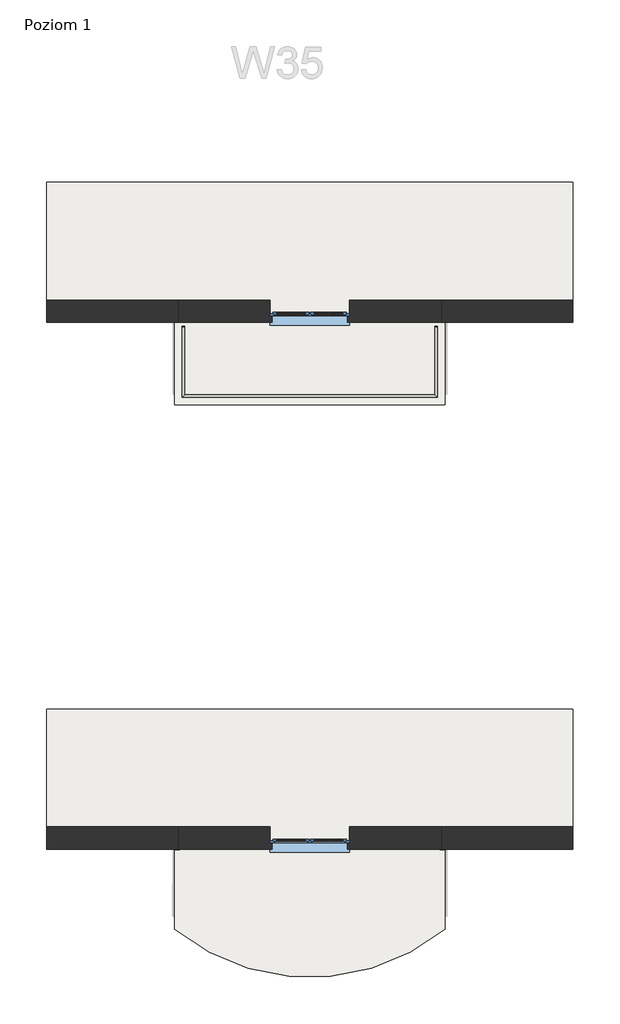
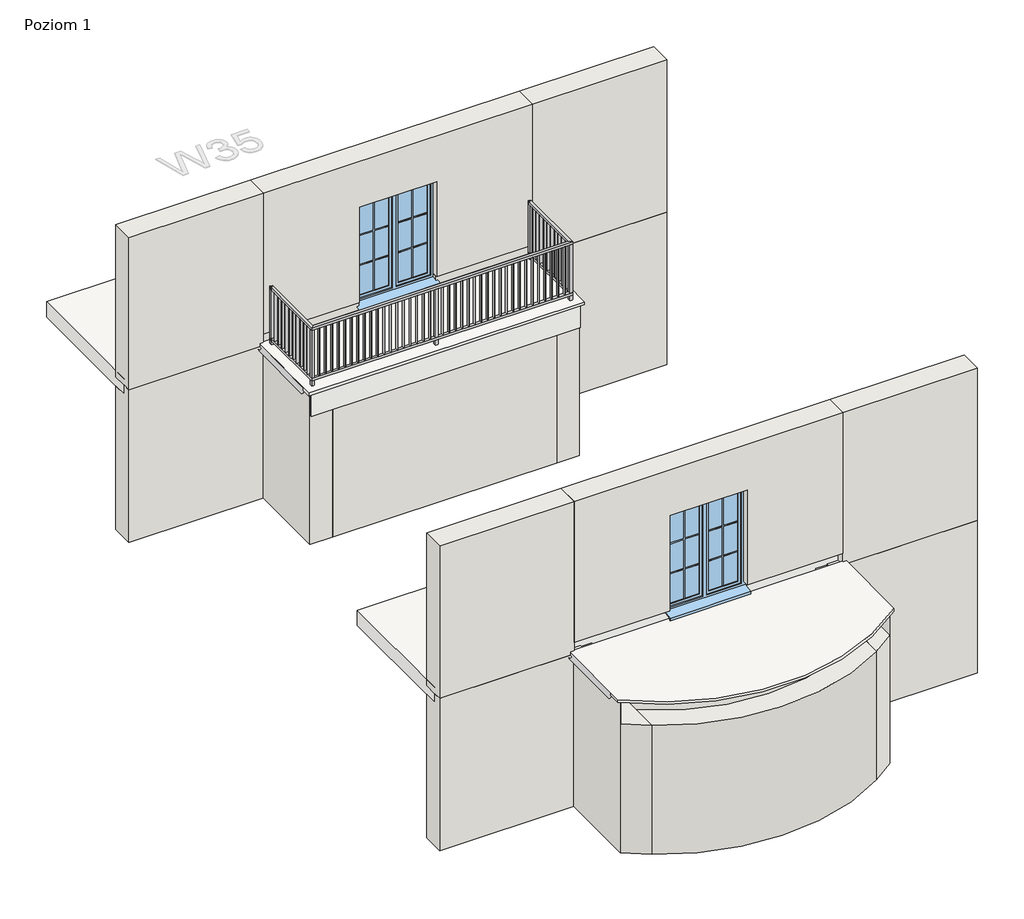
# One storey, part 1 of 4: 19 walls, 5 slabs, 2 windows, 1 railing.
"""IFC4 building model written with IfcOpenShell, lengths in millimetres."""

from ifc_helpers import new_model, si_unit, point, frame, frame_2d, origin, place, context, project, spatial, polyline, circle_curve, ellipse_curve, trimmed, segment, composite_curve, outline, extrude, faceted_brep, transform, mapped, element, save
from ifc_brep_helpers import plane_surface, cylinder_surface, advanced_brep
from components import balkon_fbdb0a73, window_150x200_9b3c3a3c

model = new_model("IFC4")

# Units and contexts
model_context = context("Model", 3, world=origin())
ifc_project = project(units=[si_unit("LENGTHUNIT", "METRE", prefix="MILLI")], contexts=[model_context])

# Site, building, storey
site = spatial("IfcSite", under=ifc_project)
building = spatial("IfcBuilding", under=site)
storey = spatial("IfcBuildingStorey", under=building, Name="Poziom 1", Elevation=0.0)

# Railing
placement = place(None, origin())
balkon_shape = balkon_fbdb0a73(model_context)
element("IfcRailing", 1, ObjectType="Balkon", at=placement, inside=storey, context=model_context, shape_type="MappedRepresentation", body=[
    mapped(balkon_shape, transform((0.0, 0.0, 0.0), x_axis=(1.0, 0.0, 0.0), y_axis=(0.0, 1.0, 0.0), z_axis=(0.0, 0.0, 1.0))),
])

# Slabs
element("IfcSlab", 2, ObjectType="Taras - konstrukcja", at=placement, inside=storey, context=model_context, shape_type="Brep", body=[
    faceted_brep([(-69561.8216237, -59321.1892174, -590.0), (-69561.8216237, -59284.0675263, -590.0), (-69561.8216237, -57779.0675263, -590.0), (-69561.8216237, -57624.0675263, -590.0), (-69146.8216237, -57624.0675263, -590.0), (-64976.8216237, -57624.0675263, -590.0), (-64561.8216237, -57624.0675263, -590.0), (-64561.8216237, -59284.0675263, -590.0), (-64561.8216237, -59321.1892174, -590.0), (-69561.8216237, -59321.1892174, -145.0), (-69561.8216237, -57757.0675263, -115.5077754), (-69561.8216237, -57624.0675263, -113.0), (-64561.8216237, -57624.0675263, -113.0), (-64561.8216237, -57624.0675263, -147.509132), (-64561.8216237, -59321.1892174, -145.0), (-64561.8216237, -57757.0675263, -115.5077754)], [[[0, 1, 2, 3, 4, 5, 6, 7, 8]], [[3, 2, 1, 0, 9, 10, 11]], [[6, 5, 4, 3, 11, 12, 13]], [[0, 8, 14, 9]], [[8, 7, 6, 13, 12, 15, 14]], [[14, 15, 12, 11, 10, 9]]]),
])
element("IfcSlab", 3, ObjectType="Taras - wykończenie - posadzka z płytek grubowarstwowych - podkładka P1 - hydroizolacja", at=placement, inside=storey, context=model_context, shape_type="SweptSolid", body=[
    extrude(outline(polyline([(-59342.0675263, -145.9716012), (-59342.0675263, -92.9716012), (-57757.0675263, -62.5716012), (-57757.0675263, -115.5716012), (-59342.0675263, -145.9716012)])), frame((-69624.8216237, 0.0, 0.0), z_axis=(1.0, 0.0, 0.0), x_axis=(0.0, 1.0, 0.0)), (0.0, 0.0, 1.0), 5126.0),
])
element("IfcSlab", 4, ObjectType="Taras - wykończenie - posadzka z płytek grubowarstwowych - podkładka P1 - hydroizolacja", at=placement, inside=storey, context=model_context, shape_type="AdvancedBrep", body=[
    advanced_brep(
    [(-69624.8216237, -67757.0675263, -62.5716012), (-69624.8216237, -67757.0675263, -115.5716012), (-69624.8216237, -69302.74001, -133.7489488), (-69624.8216237, -69302.74001, -80.7489488), (-64498.8216237, -67757.0675263, -62.5716012), (-64498.8216237, -67757.0675263, -115.5716012), (-64498.8216237, -69302.74001, -80.7489488), (-64498.8216237, -69302.74001, -133.7489488)],
    [
        (0, 1),
        (1, 2),
        (2, 3),
        (3, 0),
        (0, 4),
        (4, 5),
        (5, 1),
        (4, 6),
        (6, 7),
        (7, 5),
        (3, 6, ellipse_curve(frame((-67061.8216237, -66156.5685271, -43.7494853), z_axis=(0.0, -0.011759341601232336, 0.9999308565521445), x_axis=(0.0, -0.9999308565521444, -0.011759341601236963)), 4058.2806035, 4058.0)),
        (7, 2, ellipse_curve(frame((-67061.8216237, -66156.5685271, -96.7494853), z_axis=(0.0, 0.011759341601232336, -0.9999308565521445), x_axis=(0.0, -0.9999308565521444, -0.011759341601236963)), 4058.2806035, 4058.0)),
    ],
    [
        plane_surface(frame((-69624.8216237, -70342.0675263, -145.9716012), z_axis=(-1.0, 0.0, 0.0), x_axis=(0.0, 0.0, 1.0))),
        plane_surface(frame((-69624.8216237, -67757.0675263, -145.9716012), z_axis=(0.0, 1.0, 0.0), x_axis=(0.0, 0.0, 1.0))),
        plane_surface(frame((-64498.8216237, -67757.0675263, -145.9716012), z_axis=(1.0, 0.0, 0.0), x_axis=(0.0, 0.0, 1.0))),
        plane_surface(frame((-67061.8216237, -69049.5675263, -77.7716012), z_axis=(0.0, -0.011759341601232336, 0.9999308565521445), x_axis=(0.0, 0.9999308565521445, 0.011759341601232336))),
        plane_surface(frame((-67061.8216237, -69049.5675263, -130.7716012), z_axis=(0.0, 0.011759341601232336, -0.9999308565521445), x_axis=(0.0, 0.9999308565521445, 0.011759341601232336))),
        cylinder_surface(frame((-67061.8216237, -66156.5685271, -450.7716012), z_axis=(0.0, 0.0, -1.0), x_axis=(1.0, 0.0, 0.0)), 4058.0),
    ],
    [
        (0, [[1, 2, 3, 4]]),
        (1, [[-1, 5, 6, 7]]),
        (2, [[-6, 8, 9, 10]]),
        (3, [[-5, -4, 11, -8]]),
        (4, [[-7, -10, 12, -2]]),
        (5, [[-3, -12, -9, -11]]),
    ],
),
])
element("IfcSlab", 5, ObjectType="Strop", at=placement, inside=storey, context=model_context, shape_type="Brep", body=[
    faceted_brep([(-62061.8216237, -57624.0675263, -300.0), (-64556.8216237, -57624.0675263, -300.0), (-64976.8216237, -57624.0675263, -300.0), (-69146.8216237, -57624.0675263, -300.0), (-72061.8216237, -57624.0675263, -300.0), (-72061.8216237, -57359.0675263, -300.0), (-72061.8216237, -55124.0675263, -300.0), (-62061.8216237, -55124.0675263, -300.0), (-62061.8216237, -57359.0675263, -300.0), (-62061.8216237, -57624.0675263, 0.0), (-62061.8216237, -55124.0675263, 0.0), (-72061.8216237, -55124.0675263, 0.0), (-72061.8216237, -57624.0675263, 0.0), (-69561.8216237, -57624.0675263, 0.0), (-67811.8216237, -57624.0675263, 0.0), (-66311.8216237, -57624.0675263, 0.0), (-64561.8216237, -57624.0675263, 0.0), (-62061.8216237, -57624.0675263, -125.0), (-72061.8216237, -57624.0675263, -125.0)], [[[0, 1, 2, 3, 4, 5, 6, 7, 8]], [[9, 10, 11, 12, 13, 14, 15, 16]], [[4, 3, 2, 1, 0, 17, 9, 16, 15, 14, 13, 12, 18]], [[6, 5, 4, 18, 12, 11]], [[7, 6, 11, 10]], [[0, 8, 7, 10, 9, 17]]]),
])
element("IfcSlab", 6, ObjectType="Strop", at=placement, inside=storey, context=model_context, shape_type="Brep", body=[
    faceted_brep([(-62061.8216237, -67624.0675263, -300.0), (-64556.8216237, -67624.0675263, -300.0), (-64976.8216237, -67624.0675263, -300.0), (-69146.8216237, -67624.0675263, -300.0), (-72061.8216237, -67624.0675263, -300.0), (-72061.8216237, -67359.0675263, -300.0), (-72061.8216237, -65124.0675263, -300.0), (-62061.8216237, -65124.0675263, -300.0), (-62061.8216237, -67359.0675263, -300.0), (-62061.8216237, -67624.0675263, 0.0), (-62061.8216237, -65124.0675263, 0.0), (-72061.8216237, -65124.0675263, 0.0), (-72061.8216237, -67624.0675263, 0.0), (-69561.8216237, -67624.0675263, 0.0), (-67811.8216237, -67624.0675263, 0.0), (-66311.8216237, -67624.0675263, 0.0), (-64561.8216237, -67624.0675263, 0.0), (-62061.8216237, -67624.0675263, -125.0), (-72061.8216237, -67624.0675263, -125.0)], [[[0, 1, 2, 3, 4, 5, 6, 7, 8]], [[9, 10, 11, 12, 13, 14, 15, 16]], [[4, 3, 2, 1, 0, 17, 9, 16, 15, 14, 13, 12, 18]], [[6, 5, 4, 18, 12, 11]], [[7, 6, 11, 10]], [[0, 8, 7, 10, 9, 17]]]),
])

# Walls
element("IfcWall", 7, ObjectType="Porotherm P+W 25 + o15 + t", at=placement, inside=storey, context=model_context, shape_type="Brep", body=[
    faceted_brep([(-72061.8216237, -57779.0675263, -3125.0), (-69566.8216237, -57779.0675263, -3125.0), (-69146.8216237, -57779.0675263, -3125.0), (-69146.8216237, -57779.0675263, -590.0), (-69146.8216237, -57779.0675263, -147.509132), (-69356.8216237, -57779.0675263, -147.509132), (-69356.8216237, -57779.0675263, -125.0), (-69561.8216237, -57779.0675263, -125.0), (-72061.8216237, -57779.0675263, -125.0), (-69146.8216237, -57359.0675263, -3125.0), (-72061.8216237, -57359.0675263, -3125.0), (-72061.8216237, -57359.0675263, -300.0), (-69146.8216237, -57359.0675263, -300.0), (-69146.8216237, -57639.0675263, -3125.0), (-69356.8216237, -57624.0675263, -125.0), (-72061.8216237, -57624.0675263, -125.0), (-72061.8216237, -57624.0675263, -300.0), (-69146.8216237, -57624.0675263, -300.0), (-69356.8216237, -57624.0675263, -147.509132), (-69146.8216237, -57624.0675263, -147.509132)], [[[0, 1, 2, 3, 4, 5, 6, 7, 8]], [[9, 10, 11, 12]], [[2, 1, 0, 10, 9, 13]], [[8, 7, 6, 14, 15]], [[0, 8, 15, 16, 11, 10]], [[16, 17, 12, 11]], [[17, 16, 15, 14, 18, 19]], [[6, 5, 18, 14]], [[5, 4, 19, 18]], [[4, 3, 2, 13, 9, 12, 17, 19]]]),
])
element("IfcWall", 8, ObjectType="Porotherm P+W 25 + o15 + t", at=placement, inside=storey, context=model_context, shape_type="Brep", body=[
    faceted_brep([(-69566.8216237, -57779.0675263, -3125.0), (-69566.8216237, -59284.0675263, -3125.0), (-69566.8216237, -59284.0675263, -147.509132), (-69566.8216237, -57779.0675263, -147.509132), (-69146.8216237, -59284.0675263, -3125.0), (-69146.8216237, -58864.0675263, -3125.0), (-69146.8216237, -57779.0675263, -3125.0), (-69146.8216237, -57779.0675263, -590.0), (-69146.8216237, -59284.0675263, -590.0), (-69561.8216237, -59284.0675263, -147.509132), (-69561.8216237, -57779.0675263, -147.509132), (-69561.8216237, -59284.0675263, -590.0), (-69561.8216237, -57779.0675263, -590.0)], [[[0, 1, 2, 3]], [[4, 5, 6, 7, 8]], [[1, 0, 6, 5, 4]], [[3, 2, 9, 10]], [[2, 1, 4, 8, 11, 9]], [[0, 3, 10, 12, 7, 6]], [[12, 11, 8, 7]], [[11, 12, 10, 9]]]),
])
element("IfcWall", 9, ObjectType="Porotherm P+W 25 + o15 + t", at=placement, inside=storey, context=model_context, shape_type="SweptSolid", body=[
    extrude(outline(polyline([(-64976.8216237, -59284.0675263), (-69146.8216237, -59284.0675263), (-69146.8216237, -58864.0675263), (-64976.8216237, -58864.0675263), (-64976.8216237, -59284.0675263)])), frame((0.0, 0.0, -3125.0), z_axis=(0.0, 0.0, 1.0), x_axis=(1.0, 0.0, 0.0)), (0.0, 0.0, 1.0), 2535.0),
])
element("IfcWall", 10, ObjectType="Porotherm P+W 25 + o15 + t", at=placement, inside=storey, context=model_context, shape_type="Brep", body=[
    faceted_brep([(-64556.8216237, -59284.0675263, -3125.0), (-64556.8216237, -57779.0675263, -3125.0), (-64556.8216237, -57359.0675263, -3125.0), (-64556.8216237, -57359.0675263, -300.0), (-64556.8216237, -57359.0675263, -147.509132), (-64556.8216237, -57624.0675263, -147.509132), (-64556.8216237, -57779.0675263, -147.509132), (-64556.8216237, -59284.0675263, -147.509132), (-64976.8216237, -57359.0675263, -3125.0), (-64976.8216237, -57639.0675263, -3125.0), (-64976.8216237, -58864.0675263, -3125.0), (-64976.8216237, -59284.0675263, -3125.0), (-64976.8216237, -59284.0675263, -590.0), (-64976.8216237, -58864.0675263, -590.0), (-64976.8216237, -57639.0675263, -590.0), (-64976.8216237, -57624.0675263, -590.0), (-64976.8216237, -57624.0675263, -300.0), (-64976.8216237, -57624.0675263, -147.509132), (-64976.8216237, -57359.0675263, -147.509132), (-64976.8216237, -57359.0675263, -300.0), (-64561.8216237, -57624.0675263, -147.509132), (-64561.8216237, -59284.0675263, -147.509132), (-64561.8216237, -59284.0675263, -590.0), (-64561.8216237, -57624.0675263, -590.0)], [[[0, 1, 2, 3, 4, 5, 6, 7]], [[8, 9, 10, 11, 12, 13, 14, 15, 16, 17, 18, 19]], [[2, 1, 0, 11, 10, 9, 8]], [[7, 6, 5, 4, 18, 17, 20, 21]], [[0, 7, 21, 22, 12, 11]], [[4, 3, 2, 8, 19, 18]], [[22, 23, 15, 14, 13, 12]], [[15, 23, 20, 17, 16]], [[23, 22, 21, 20]]]),
])
element("IfcWall", 11, ObjectType="Porotherm P+W 25 + o15 + t", at=placement, inside=storey, context=model_context, shape_type="Brep", body=[
    faceted_brep([(-64556.8216237, -57779.0675263, -3125.0), (-62061.8216237, -57779.0675263, -3125.0), (-62061.8216237, -57779.0675263, -125.0), (-64561.8216237, -57779.0675263, -125.0), (-64766.8216237, -57779.0675263, -125.0), (-64766.8216237, -57779.0675263, -147.509132), (-64556.8216237, -57779.0675263, -147.509132), (-62061.8216237, -57359.0675263, -3125.0), (-64556.8216237, -57359.0675263, -3125.0), (-64556.8216237, -57359.0675263, -300.0), (-62061.8216237, -57359.0675263, -300.0), (-62061.8216237, -57624.0675263, -300.0), (-62061.8216237, -57624.0675263, -125.0), (-64766.8216237, -57624.0675263, -125.0), (-64556.8216237, -57624.0675263, -300.0), (-64556.8216237, -57624.0675263, -147.509132), (-64766.8216237, -57624.0675263, -147.509132)], [[[0, 1, 2, 3, 4, 5, 6]], [[7, 8, 9, 10]], [[1, 0, 8, 7]], [[2, 1, 7, 10, 11, 12]], [[4, 3, 2, 12, 13]], [[14, 11, 10, 9]], [[11, 14, 15, 16, 13, 12]], [[5, 4, 13, 16]], [[6, 5, 16, 15]], [[0, 6, 15, 14, 9, 8]]]),
])
element("IfcWall", 12, ObjectType="Porotherm P+W 25(wieniec 45) + t", at=placement, inside=storey, context=model_context, shape_type="SweptSolid", body=[
    extrude(outline(polyline([(-57359.0675263, -3125.0), (-57639.0675263, -3125.0), (-57639.0675263, -590.0), (-57624.0675263, -590.0), (-57624.0675263, -300.0), (-57359.0675263, -300.0), (-57359.0675263, -3125.0)])), frame((-69146.8216237, 0.0, 0.0), z_axis=(1.0, 0.0, 0.0), x_axis=(0.0, 1.0, 0.0)), (0.0, 0.0, 1.0), 4170.0),
])
element("IfcWall", 13, ObjectType="Porotherm P+W 25 + o15 + t", at=placement, inside=storey, context=model_context, shape_type="Brep", body=[
    faceted_brep([(-72061.8216237, -57779.0675263, -125.0), (-69561.8216237, -57779.0675263, -125.0), (-69561.8216237, -57779.0675263, 100.0), (-69561.8216237, -57779.0675263, 2875.0), (-72061.8216237, -57779.0675263, 2875.0), (-72061.8216237, -57359.0675263, -125.0), (-72061.8216237, -57359.0675263, 2875.0), (-69561.8216237, -57359.0675263, 2875.0), (-69561.8216237, -57359.0675263, 100.0), (-69561.8216237, -57359.0675263, 0.0), (-69561.8216237, -57359.0675263, -125.0), (-72061.8216237, -57624.0675263, -125.0)], [[[0, 1, 2, 3, 4]], [[5, 6, 7, 8, 9, 10]], [[1, 0, 11, 5, 10]], [[4, 3, 7, 6]], [[0, 4, 6, 5, 11]], [[1, 10, 9, 8, 7, 3, 2]]]),
])
element("IfcWall", 14, ObjectType="Porotherm P+W 25 + o15 + t", at=placement, inside=storey, context=model_context, shape_type="Brep", body=[
    faceted_brep([(-64561.8216237, -57779.0675263, 2875.0), (-64561.8216237, -57779.0675263, 100.0), (-64561.8216237, -57779.0675263, -125.0), (-62061.8216237, -57779.0675263, -125.0), (-62061.8216237, -57779.0675263, 2875.0), (-64561.8216237, -57359.0675263, -125.0), (-64561.8216237, -57359.0675263, 0.0), (-64561.8216237, -57359.0675263, 100.0), (-64561.8216237, -57359.0675263, 2875.0), (-62061.8216237, -57359.0675263, 2875.0), (-62061.8216237, -57359.0675263, -125.0), (-62061.8216237, -57624.0675263, -125.0)], [[[0, 1, 2, 3, 4]], [[5, 6, 7, 8, 9, 10]], [[3, 2, 5, 10, 11]], [[4, 3, 11, 10, 9]], [[0, 4, 9, 8]], [[0, 8, 7, 6, 5, 2, 1]]]),
])
element("IfcWall", 15, ObjectType="Porotherm P+W 25 + o12 + pł ceramiczne", at=placement, inside=storey, context=model_context, shape_type="Brep", body=[
    faceted_brep([(-64561.8216237, -57757.0675263, 100.0), (-66341.8216237, -57757.0675263, 100.0), (-66341.8216237, -57757.0675263, 0.0), (-67781.8216237, -57757.0675263, 0.0), (-67781.8216237, -57757.0675263, 100.0), (-69561.8216237, -57757.0675263, 100.0), (-69561.8216237, -57757.0675263, -115.5077754), (-64561.8216237, -57757.0675263, -115.5077754), (-64561.8216237, -57359.0675263, 100.0), (-64561.8216237, -57359.0675263, 0.0), (-66311.8216237, -57359.0675263, 0.0), (-66311.8216237, -57359.0675263, 100.0), (-69561.8216237, -57359.0675263, 0.0), (-69561.8216237, -57359.0675263, 100.0), (-67811.8216237, -57359.0675263, 100.0), (-67811.8216237, -57359.0675263, 0.0), (-64561.8216237, -57624.0675263, -113.0), (-64561.8216237, -57624.0675263, 0.0), (-66311.8216237, -57659.0675263, 100.0), (-66341.8216237, -57659.0675263, 100.0), (-67781.8216237, -57659.0675263, 100.0), (-67811.8216237, -57659.0675263, 100.0), (-69561.8216237, -57624.0675263, 0.0), (-69561.8216237, -57624.0675263, -113.0), (-67811.8216237, -57624.0675263, 0.0), (-66311.8216237, -57624.0675263, 0.0), (-67811.8216237, -57659.0675263, 0.0), (-67781.8216237, -57659.0675263, 0.0), (-66341.8216237, -57659.0675263, 0.0), (-66311.8216237, -57659.0675263, 0.0)], [[[0, 1, 2, 3, 4, 5, 6, 7]], [[8, 9, 10, 11]], [[12, 13, 14, 15]], [[8, 0, 7, 16, 17, 9]], [[0, 8, 11, 18, 19, 1]], [[13, 5, 4, 20, 21, 14]], [[5, 13, 12, 22, 23, 6]], [[12, 15, 24, 22]], [[9, 17, 25, 10]], [[25, 17, 16, 23, 22, 24]], [[7, 6, 23, 16]], [[26, 27, 3, 2, 28, 29, 25, 24]], [[27, 26, 21, 20]], [[29, 28, 19, 18]], [[29, 18, 11, 10, 25]], [[21, 26, 24, 15, 14]], [[28, 2, 1, 19]], [[3, 27, 20, 4]]]),
])
element("IfcWall", 16, ObjectType="Porotherm P+W 25 + o15 + t", at=placement, inside=storey, context=model_context, shape_type="Brep", body=[
    faceted_brep([(-64561.8216237, -57779.0675263, 100.0), (-64561.8216237, -57779.0675263, 2875.0), (-69561.8216237, -57779.0675263, 2875.0), (-69561.8216237, -57779.0675263, 100.0), (-67781.8216237, -57779.0675263, 100.0), (-67781.8216237, -57779.0675263, 1970.0), (-66341.8216237, -57779.0675263, 1970.0), (-66341.8216237, -57779.0675263, 100.0), (-64561.8216237, -57359.0675263, 2875.0), (-64561.8216237, -57359.0675263, 100.0), (-66311.8216237, -57359.0675263, 100.0), (-66311.8216237, -57359.0675263, 2000.0), (-67811.8216237, -57359.0675263, 2000.0), (-67811.8216237, -57359.0675263, 100.0), (-69561.8216237, -57359.0675263, 100.0), (-69561.8216237, -57359.0675263, 2875.0), (-69561.8216237, -57757.0675263, 100.0), (-67811.8216237, -57659.0675263, 100.0), (-67781.8216237, -57659.0675263, 100.0), (-67781.8216237, -57757.0675263, 100.0), (-64561.8216237, -57757.0675263, 100.0), (-66341.8216237, -57757.0675263, 100.0), (-66341.8216237, -57659.0675263, 100.0), (-66311.8216237, -57659.0675263, 100.0), (-66311.8216237, -57659.0675263, 2000.0), (-66341.8216237, -57659.0675263, 1970.0), (-67811.8216237, -57659.0675263, 2000.0), (-67781.8216237, -57659.0675263, 1970.0)], [[[0, 1, 2, 3, 4, 5, 6, 7]], [[8, 9, 10, 11, 12, 13, 14, 15]], [[3, 16, 14, 13, 17, 18, 19, 4]], [[9, 20, 0, 7, 21, 22, 23, 10]], [[1, 0, 20, 9, 8]], [[2, 1, 8, 15]], [[3, 2, 15, 14, 16]], [[24, 11, 10, 23]], [[6, 25, 22, 21, 7]], [[26, 12, 11, 24]], [[26, 24, 23, 22, 25, 27, 18, 17]], [[12, 26, 17, 13]], [[27, 25, 6, 5]], [[27, 5, 4, 19, 18]]]),
])
element("IfcWall", 17, ObjectType="Porotherm P+W 25 + o15 + t", at=placement, inside=storey, context=model_context, shape_type="Brep", body=[
    faceted_brep([(-72061.8216237, -67779.0675263, -3125.0), (-69566.8216237, -67779.0675263, -3125.0), (-69146.8216237, -67779.0675263, -3125.0), (-69146.8216237, -67779.0675263, -590.0), (-69146.8216237, -67779.0675263, -147.509132), (-69356.8216237, -67779.0675263, -147.509132), (-69356.8216237, -67779.0675263, -125.0), (-69561.8216237, -67779.0675263, -125.0), (-72061.8216237, -67779.0675263, -125.0), (-69146.8216237, -67359.0675263, -3125.0), (-72061.8216237, -67359.0675263, -3125.0), (-72061.8216237, -67359.0675263, -300.0), (-69146.8216237, -67359.0675263, -300.0), (-69146.8216237, -67639.0675263, -3125.0), (-69356.8216237, -67624.0675263, -125.0), (-72061.8216237, -67624.0675263, -125.0), (-72061.8216237, -67624.0675263, -300.0), (-69146.8216237, -67624.0675263, -300.0), (-69356.8216237, -67624.0675263, -147.509132), (-69146.8216237, -67624.0675263, -147.509132)], [[[0, 1, 2, 3, 4, 5, 6, 7, 8]], [[9, 10, 11, 12]], [[2, 1, 0, 10, 9, 13]], [[8, 7, 6, 14, 15]], [[0, 8, 15, 16, 11, 10]], [[16, 17, 12, 11]], [[17, 16, 15, 14, 18, 19]], [[6, 5, 18, 14]], [[5, 4, 19, 18]], [[4, 3, 2, 13, 9, 12, 17, 19]]]),
])
element("IfcWall", 18, ObjectType="Porotherm P+W 25 + o15 + t", at=placement, inside=storey, context=model_context, shape_type="AdvancedBrep", body=[
    advanced_brep(
    [(-69566.8216237, -67779.0675263, -3125.0), (-69566.8216237, -69275.0577446, -3125.0), (-69566.8216237, -69275.0577446, -147.509132), (-69566.8216237, -67779.0675263, -147.509132), (-69146.8216237, -69570.1846449, -3125.0), (-69146.8216237, -69066.7532291, -3125.0), (-69146.8216237, -67779.0675263, -3125.0), (-69146.8216237, -67779.0675263, -590.0), (-69146.8216237, -69570.1846449, -590.0), (-69561.8216237, -69279.0675263, -147.509132), (-69561.8216237, -67779.0675263, -147.509132), (-69561.8216237, -67779.0675263, -590.0), (-69561.8216237, -69279.0675263, -590.0)],
    [
        (0, 1),
        (1, 2),
        (2, 3),
        (3, 0),
        (4, 5),
        (5, 6),
        (6, 7),
        (7, 8),
        (8, 4),
        (0, 6),
        (4, 1, circle_curve(frame((-67061.8216237, -66156.5685271, -3125.0), z_axis=(0.0, 0.0, -1.0), x_axis=(1.0, 0.0, 0.0)), 4000.0)),
        (2, 9, circle_curve(frame((-67061.8216237, -66156.5685271, -147.509132), z_axis=(0.0, 0.0, 1.0), x_axis=(1.0, 0.0, 0.0)), 4000.0)),
        (9, 10),
        (10, 3),
        (10, 11),
        (11, 7),
        (11, 12),
        (12, 8, circle_curve(frame((-67061.8216237, -66156.5685271, -590.0), z_axis=(0.0, 0.0, 1.0), x_axis=(1.0, 0.0, 0.0)), 4000.0)),
        (9, 12),
    ],
    [
        plane_surface(frame((-69566.8216237, -70131.3768486, -3125.0), z_axis=(-1.0, 0.0, 0.0), x_axis=(0.0, -1.0, 0.0))),
        plane_surface(frame((-69146.8216237, -70131.3768486, -3125.0), z_axis=(1.0, 0.0, 0.0), x_axis=(0.0, 1.0, 0.0))),
        plane_surface(frame((-69566.8216237, -67499.0675263, -3125.0), z_axis=(0.0, 0.0, -1.0), x_axis=(1.0, 0.0, 0.0))),
        plane_surface(frame((-69566.8216237, -69172.7042999, -147.509132), z_axis=(0.0, 0.0, 1.0), x_axis=(1.0, 0.0, 0.0))),
        plane_surface(frame((-60708.2876347, -67779.0675263, -3125.0), z_axis=(0.0, 1.0, 0.0), x_axis=(1.0, 0.0, 0.0))),
        plane_surface(frame((-69561.8216237, -67671.0675263, -590.0), z_axis=(0.0, 0.0, 1.0), x_axis=(0.0, 1.0, 0.0))),
        plane_surface(frame((-69561.8216237, -69320.7066042, -590.0), z_axis=(1.0, 0.0, 0.0), x_axis=(0.0, 0.0, 1.0))),
        cylinder_surface(frame((-67061.8216237, -66156.5685271, -3125.0), z_axis=(0.0, 0.0, 1.0), x_axis=(1.0, 0.0, 0.0)), 4000.0),
    ],
    [
        (0, [[1, 2, 3, 4]]),
        (1, [[5, 6, 7, 8, 9]]),
        (2, [[-1, 10, -6, -5, 11]]),
        (3, [[-3, 12, 13, 14]]),
        (4, [[-4, -14, 15, 16, -7, -10]]),
        (5, [[17, 18, -8, -16]]),
        (6, [[-17, -15, -13, 19]]),
        (7, [[-2, -11, -9, -18, -19, -12]]),
    ],
),
])
element("IfcWall", 19, ObjectType="Porotherm P+W 25 + o15 + t", at=placement, inside=storey, context=model_context, shape_type="AdvancedBrep", body=[
    advanced_brep(
    [(-64556.8216237, -69275.0577446, -3125.0), (-64556.8216237, -67779.0675263, -3125.0), (-64556.8216237, -67359.0675263, -3125.0), (-64556.8216237, -67359.0675263, -300.0), (-64556.8216237, -67359.0675263, -147.509132), (-64556.8216237, -67624.0675263, -147.509132), (-64556.8216237, -67779.0675263, -147.509132), (-64556.8216237, -69275.0577446, -147.509132), (-64976.8216237, -67359.0675263, -3125.0), (-64976.8216237, -67639.0675263, -3125.0), (-64976.8216237, -69066.7532291, -3125.0), (-64976.8216237, -69570.1846449, -3125.0), (-64976.8216237, -69570.1846449, -590.0), (-64976.8216237, -69066.7532291, -590.0), (-64976.8216237, -67639.0675263, -590.0), (-64976.8216237, -67624.0675263, -590.0), (-64976.8216237, -67624.0675263, -300.0), (-64976.8216237, -67624.0675263, -147.509132), (-64976.8216237, -67359.0675263, -147.509132), (-64976.8216237, -67359.0675263, -300.0), (-64561.8216237, -67624.0675263, -147.509132), (-64561.8216237, -69279.0675263, -147.509132), (-64561.8216237, -69279.0675263, -590.0), (-64561.8216237, -67624.0675263, -590.0)],
    [
        (0, 1),
        (1, 2),
        (2, 3),
        (3, 4),
        (4, 5),
        (5, 6),
        (6, 7),
        (7, 0),
        (8, 9),
        (9, 10),
        (10, 11),
        (11, 12),
        (12, 13),
        (13, 14),
        (14, 15),
        (15, 16),
        (16, 17),
        (17, 18),
        (18, 19),
        (19, 8),
        (0, 11, circle_curve(frame((-67061.8216237, -66156.5685271, -3125.0), z_axis=(0.0, 0.0, -1.0), x_axis=(1.0, 0.0, 0.0)), 4000.0)),
        (8, 2),
        (4, 18),
        (17, 20),
        (20, 21),
        (21, 7, circle_curve(frame((-67061.8216237, -66156.5685271, -147.509132), z_axis=(0.0, 0.0, 1.0), x_axis=(1.0, 0.0, 0.0)), 4000.0)),
        (22, 23),
        (23, 15),
        (12, 22, circle_curve(frame((-67061.8216237, -66156.5685271, -590.0), z_axis=(0.0, 0.0, 1.0), x_axis=(1.0, 0.0, 0.0)), 4000.0)),
        (23, 20),
        (22, 21),
    ],
    [
        plane_surface(frame((-64556.8216237, -72031.3768486, -3125.0), z_axis=(1.0, 0.0, 0.0), x_axis=(0.0, 1.0, 0.0))),
        plane_surface(frame((-64976.8216237, -72031.3768486, -3125.0), z_axis=(-1.0, 0.0, 0.0), x_axis=(0.0, -1.0, 0.0))),
        plane_surface(frame((-64556.8216237, -69172.7042999, -3125.0), z_axis=(0.0, 0.0, -1.0), x_axis=(-1.0, 0.0, 0.0))),
        plane_surface(frame((-64556.8216237, -67499.0675263, -147.509132), z_axis=(0.0, 0.0, 1.0), x_axis=(-1.0, 0.0, 0.0))),
        plane_surface(frame((-60863.2876347, -67359.0675263, -3125.0), z_axis=(0.0, 1.0, 0.0), x_axis=(-1.0, 0.0, 0.0))),
        plane_surface(frame((-69561.8216237, -67671.0675263, -590.0), z_axis=(0.0, 0.0, 1.0), x_axis=(0.0, 1.0, 0.0))),
        plane_surface(frame((-69561.8216237, -67624.0675263, -590.0), z_axis=(0.0, -1.0, 0.0), x_axis=(0.0, 0.0, 1.0))),
        plane_surface(frame((-64561.8216237, -67624.0675263, -590.0), z_axis=(-1.0, 0.0, 0.0), x_axis=(0.0, 0.0, 1.0))),
        cylinder_surface(frame((-67061.8216237, -66156.5685271, -3125.0), z_axis=(0.0, 0.0, 1.0), x_axis=(1.0, 0.0, 0.0)), 4000.0),
    ],
    [
        (0, [[1, 2, 3, 4, 5, 6, 7, 8]]),
        (1, [[9, 10, 11, 12, 13, 14, 15, 16, 17, 18, 19, 20]]),
        (2, [[-2, -1, 21, -11, -10, -9, 22]]),
        (3, [[-7, -6, -5, 23, -18, 24, 25, 26]]),
        (4, [[-4, -3, -22, -20, -19, -23]]),
        (5, [[27, 28, -15, -14, -13, 29]]),
        (6, [[-28, 30, -24, -17, -16]]),
        (7, [[-27, 31, -25, -30]]),
        (8, [[-8, -26, -31, -29, -12, -21]]),
    ],
),
])
element("IfcWall", 20, ObjectType="Porotherm P+W 25 + o15 + t", at=placement, inside=storey, context=model_context, shape_type="Brep", body=[
    faceted_brep([(-64556.8216237, -67779.0675263, -3125.0), (-62061.8216237, -67779.0675263, -3125.0), (-62061.8216237, -67779.0675263, -125.0), (-64561.8216237, -67779.0675263, -125.0), (-64766.8216237, -67779.0675263, -125.0), (-64766.8216237, -67779.0675263, -147.509132), (-64556.8216237, -67779.0675263, -147.509132), (-62061.8216237, -67359.0675263, -3125.0), (-64556.8216237, -67359.0675263, -3125.0), (-64556.8216237, -67359.0675263, -300.0), (-62061.8216237, -67359.0675263, -300.0), (-62061.8216237, -67624.0675263, -300.0), (-62061.8216237, -67624.0675263, -125.0), (-64766.8216237, -67624.0675263, -125.0), (-64556.8216237, -67624.0675263, -300.0), (-64556.8216237, -67624.0675263, -147.509132), (-64766.8216237, -67624.0675263, -147.509132)], [[[0, 1, 2, 3, 4, 5, 6]], [[7, 8, 9, 10]], [[1, 0, 8, 7]], [[2, 1, 7, 10, 11, 12]], [[4, 3, 2, 12, 13]], [[14, 11, 10, 9]], [[11, 14, 15, 16, 13, 12]], [[5, 4, 13, 16]], [[6, 5, 16, 15]], [[0, 6, 15, 14, 9, 8]]]),
])
element("IfcWall", 21, ObjectType="Porotherm P+W 25(wieniec 45) + t", at=placement, inside=storey, context=model_context, shape_type="SweptSolid", body=[
    extrude(outline(polyline([(-67359.0675263, -3125.0), (-67639.0675263, -3125.0), (-67639.0675263, -590.0), (-67624.0675263, -590.0), (-67624.0675263, -300.0), (-67359.0675263, -300.0), (-67359.0675263, -3125.0)])), frame((-69146.8216237, 0.0, 0.0), z_axis=(1.0, 0.0, 0.0), x_axis=(0.0, 1.0, 0.0)), (0.0, 0.0, 1.0), 4170.0),
])
element("IfcWall", 22, ObjectType="Porotherm P+W 25 + o15 + t", at=placement, inside=storey, context=model_context, shape_type="Brep", body=[
    faceted_brep([(-72061.8216237, -67779.0675263, -125.0), (-69561.8216237, -67779.0675263, -125.0), (-69561.8216237, -67779.0675263, 100.0), (-69561.8216237, -67779.0675263, 2875.0), (-72061.8216237, -67779.0675263, 2875.0), (-72061.8216237, -67359.0675263, -125.0), (-72061.8216237, -67359.0675263, 2875.0), (-69561.8216237, -67359.0675263, 2875.0), (-69561.8216237, -67359.0675263, 100.0), (-69561.8216237, -67359.0675263, 0.0), (-69561.8216237, -67359.0675263, -125.0), (-72061.8216237, -67624.0675263, -125.0)], [[[0, 1, 2, 3, 4]], [[5, 6, 7, 8, 9, 10]], [[1, 0, 11, 5, 10]], [[4, 3, 7, 6]], [[0, 4, 6, 5, 11]], [[1, 10, 9, 8, 7, 3, 2]]]),
])
element("IfcWall", 23, ObjectType="Porotherm P+W 25 + o15 + t", at=placement, inside=storey, context=model_context, shape_type="Brep", body=[
    faceted_brep([(-64561.8216237, -67779.0675263, 2875.0), (-64561.8216237, -67779.0675263, 100.0), (-64561.8216237, -67779.0675263, -125.0), (-62061.8216237, -67779.0675263, -125.0), (-62061.8216237, -67779.0675263, 2875.0), (-64561.8216237, -67359.0675263, -125.0), (-64561.8216237, -67359.0675263, 0.0), (-64561.8216237, -67359.0675263, 100.0), (-64561.8216237, -67359.0675263, 2875.0), (-62061.8216237, -67359.0675263, 2875.0), (-62061.8216237, -67359.0675263, -125.0), (-62061.8216237, -67624.0675263, -125.0)], [[[0, 1, 2, 3, 4]], [[5, 6, 7, 8, 9, 10]], [[3, 2, 5, 10, 11]], [[4, 3, 11, 10, 9]], [[0, 4, 9, 8]], [[0, 8, 7, 6, 5, 2, 1]]]),
])
element("IfcWall", 24, ObjectType="Porotherm P+W 25 + o15 + t", at=placement, inside=storey, context=model_context, shape_type="Brep", body=[
    faceted_brep([(-64561.8216237, -67779.0675263, 100.0), (-64561.8216237, -67779.0675263, 2875.0), (-69561.8216237, -67779.0675263, 2875.0), (-69561.8216237, -67779.0675263, 100.0), (-67781.8216237, -67779.0675263, 100.0), (-67781.8216237, -67779.0675263, 1970.0), (-66341.8216237, -67779.0675263, 1970.0), (-66341.8216237, -67779.0675263, 100.0), (-64561.8216237, -67359.0675263, 2875.0), (-64561.8216237, -67359.0675263, 100.0), (-66311.8216237, -67359.0675263, 100.0), (-66311.8216237, -67359.0675263, 2000.0), (-67811.8216237, -67359.0675263, 2000.0), (-67811.8216237, -67359.0675263, 100.0), (-69561.8216237, -67359.0675263, 100.0), (-69561.8216237, -67359.0675263, 2875.0), (-69561.8216237, -67757.0675263, 100.0), (-67811.8216237, -67659.0675263, 100.0), (-67781.8216237, -67659.0675263, 100.0), (-67781.8216237, -67757.0675263, 100.0), (-64561.8216237, -67757.0675263, 100.0), (-66341.8216237, -67757.0675263, 100.0), (-66341.8216237, -67659.0675263, 100.0), (-66311.8216237, -67659.0675263, 100.0), (-66311.8216237, -67659.0675263, 2000.0), (-66341.8216237, -67659.0675263, 1970.0), (-67811.8216237, -67659.0675263, 2000.0), (-67781.8216237, -67659.0675263, 1970.0)], [[[0, 1, 2, 3, 4, 5, 6, 7]], [[8, 9, 10, 11, 12, 13, 14, 15]], [[3, 16, 14, 13, 17, 18, 19, 4]], [[9, 20, 0, 7, 21, 22, 23, 10]], [[1, 0, 20, 9, 8]], [[2, 1, 8, 15]], [[3, 2, 15, 14, 16]], [[24, 11, 10, 23]], [[6, 25, 22, 21, 7]], [[26, 12, 11, 24]], [[26, 24, 23, 22, 25, 27, 18, 17]], [[12, 26, 17, 13]], [[27, 25, 6, 5]], [[27, 5, 4, 19, 18]]]),
])
element("IfcWall", 25, ObjectType="Porotherm P+W 25 + o15 + t", at=placement, inside=storey, context=model_context, shape_type="SweptSolid", body=[
    extrude(outline(composite_curve([segment(trimmed(circle_curve(frame_2d((-67061.8216237, -66156.5685271)), 4000.0), [point((-64976.8216237, -69570.1846449))], [point((-69146.8216237, -69570.1846449))], False, "CARTESIAN"), True, "CONTINUOUS"), segment(polyline([(-69146.8216237, -69570.1846449), (-69146.8216237, -69066.7532291)]), True, "CONTINUOUS"), segment(trimmed(circle_curve(frame_2d((-67061.8216237, -66156.5685271)), 3580.0), [point((-69146.8216237, -69066.7532291))], [point((-64976.8216237, -69066.7532291))], True, "CARTESIAN"), True, "CONTINUOUS"), segment(polyline([(-64976.8216237, -69066.7532291), (-64976.8216237, -69570.1846449)]), True, "CONTINUOUS")], self_intersect=False)), frame((0.0, 0.0, -3125.0), z_axis=(0.0, 0.0, 1.0), x_axis=(1.0, 0.0, 0.0)), (0.0, 0.0, 1.0), 2535.0),
])

# Windows
window_150x200_shape = window_150x200_9b3c3a3c(model_context)
element("IfcWindow", 26, ObjectType="OKNO_2X_W_SZ : 150x200", at=placement, inside=storey, context=model_context, shape_type="MappedRepresentation", body=[
    mapped(window_150x200_shape, transform((-67061.8216237, -57569.0675263, -850.0), x_axis=(-1.0, 0.0, 0.0), y_axis=(0.0, -1.0, 0.0), z_axis=(0.0, 0.0, 1.0))),
])
element("IfcWindow", 27, ObjectType="OKNO_2X_W_SZ : 150x200", at=placement, inside=storey, context=model_context, shape_type="MappedRepresentation", body=[
    mapped(window_150x200_shape, transform((-67061.8216237, -67569.0675263, -850.0), x_axis=(-1.0, 0.0, 0.0), y_axis=(0.0, -1.0, 0.0), z_axis=(0.0, 0.0, 1.0))),
])

save(model, "model.ifc")
